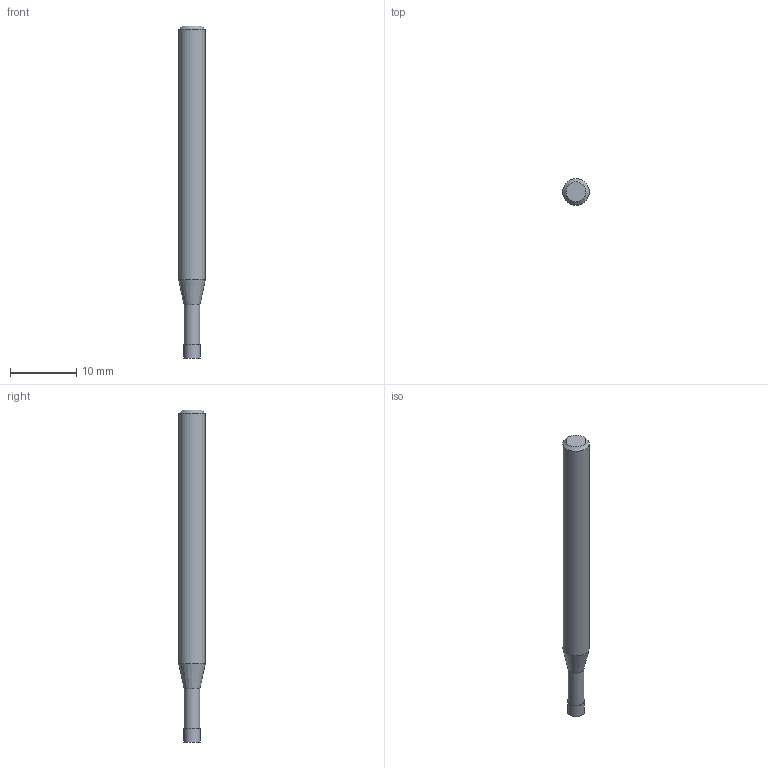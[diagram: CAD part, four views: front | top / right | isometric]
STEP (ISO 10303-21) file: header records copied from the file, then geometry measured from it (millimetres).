
FILE_DESCRIPTION((''),'2;1');
FILE_NAME('C:\Users\nsx150\AppData\Local\Temp\Mastercam 2021\3SYKECWX22\TEMP.step','2021-04-22T09:39:27',(''),(''),'STEP Write','Mastercam 2021 ... CNC Software, Inc.','');
FILE_SCHEMA(('AUTOMOTIVE_DESIGN'));
Length unit declared in the file: millimetre
Products named in the file (1): None
Bounding box: 4 x 4 x 50 mm (x, y, z)
Volume: 546.9 mm3; surface area: 603 mm2
Topology: 2 solids, 2 shells, 9 faces, 12 edges, 7 vertices
Faces by surface type: plane 4, cylinder 3, cone 2
Full cylindrical faces by diameter (mm): 2.4 x1, 2.5 x1, 4 x1
Entity records: 211 total; most frequent: DIRECTION 36, CARTESIAN_POINT 25, AXIS2_PLACEMENT_3D 18, ORIENTED_EDGE 14, EDGE_LOOP 14, STYLED_ITEM 12, ADVANCED_FACE 9, FACE_BOUND 8
